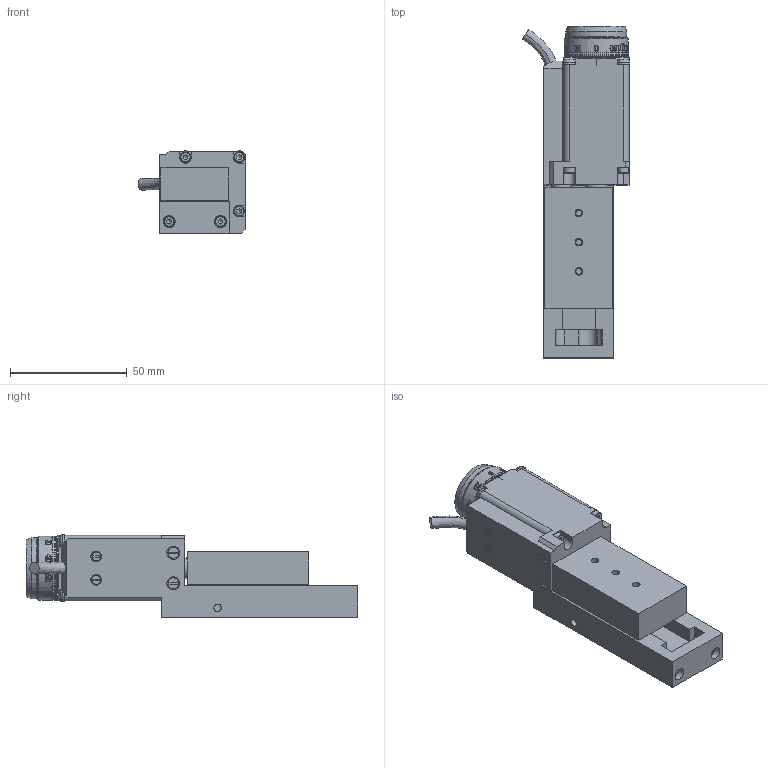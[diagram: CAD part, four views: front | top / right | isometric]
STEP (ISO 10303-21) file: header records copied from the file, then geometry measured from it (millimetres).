
FILE_DESCRIPTION(/* description */ (''),/* implementation_level */ '2;1');
FILE_NAME(/* name */ 'U:\KONSTRUKTORIAI\DOKUMENTACIJA\8\8MT173\8MT173-25\STEP\8MT173-25.stp',/* time_stamp */ '2020-10-12T10:46:13+03:00',/* author */ ('dsgn36'),/* organization */ (''),/* preprocessor_version */ 'ST-DEVELOPER v15.2',/* originating_system */ 'Autodesk Inventor 2014',/* authorisation */ '');
FILE_SCHEMA (('CONFIG_CONTROL_DESIGN'));
Products named in the file (2): Part11; 8MT173-25
Bounding box: 46.04 x 142 x 35.3 mm (x, y, z)
Volume: 108405.3 mm3; surface area: 30881.6 mm2
Topology: 1 solids, 5 shells, 1791 faces, 4906 edges, 3222 vertices
Faces by surface type: plane 962, bspline 356, cylinder 287, cone 116, torus 42, sphere 28
Full cylindrical faces by diameter (mm): 1.948 x4, 2 x4, 2.5 x3, 3.2 x4, 3.242 x3, 4.5 x18, 4.917 x2, 5 x10, 5.2 x12, 7.1 x1, 8.3 x1, 9 x1, 25 x1, 26 x1, 27.5 x1
Entity records: 118829 total; most frequent: CARTESIAN_POINT 77220, ORIENTED_EDGE 9420, DIRECTION 7284, EDGE_CURVE 4710, VERTEX_POINT 3163, LINE 2440, VECTOR 2440, AXIS2_PLACEMENT_3D 2422
